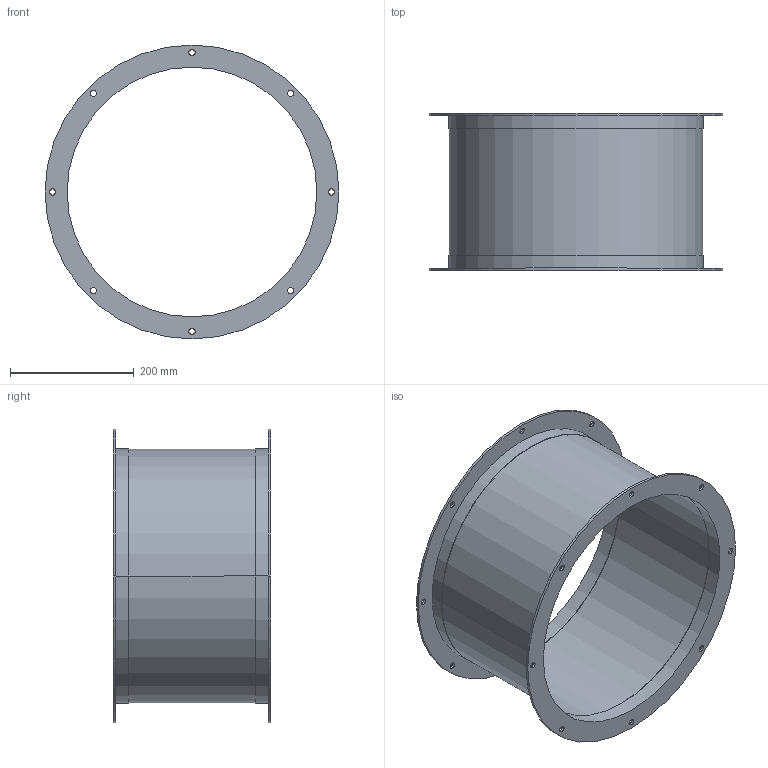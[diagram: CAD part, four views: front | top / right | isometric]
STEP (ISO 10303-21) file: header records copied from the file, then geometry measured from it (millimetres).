
FILE_DESCRIPTION(('STEP AP214'),'1');
FILE_NAME('accessory_5136834800.stp','2017-10-09T08:00:39',('TraceParts'),('TraceParts S.A.'),'Spatial InterOp 3D',' ',' ');
FILE_SCHEMA(('automotive_design'));
Length unit declared in the file: millimetre
Products named in the file (1): accessory_5136834800
Bounding box: 474 x 254 x 474 mm (x, y, z)
Volume: 1122698.4 mm3; surface area: 841126.9 mm2
Topology: 1 solids, 1 shells, 56 faces, 144 edges, 96 vertices
Faces by surface type: cylinder 48, plane 8
Entity records: 2296 total; most frequent: DIRECTION 354, CARTESIAN_POINT 297, ORIENTED_EDGE 288, AXIS2_PLACEMENT_3D 153, EDGE_CURVE 144, EDGE_LOOP 96, VERTEX_POINT 96, CIRCLE 96
